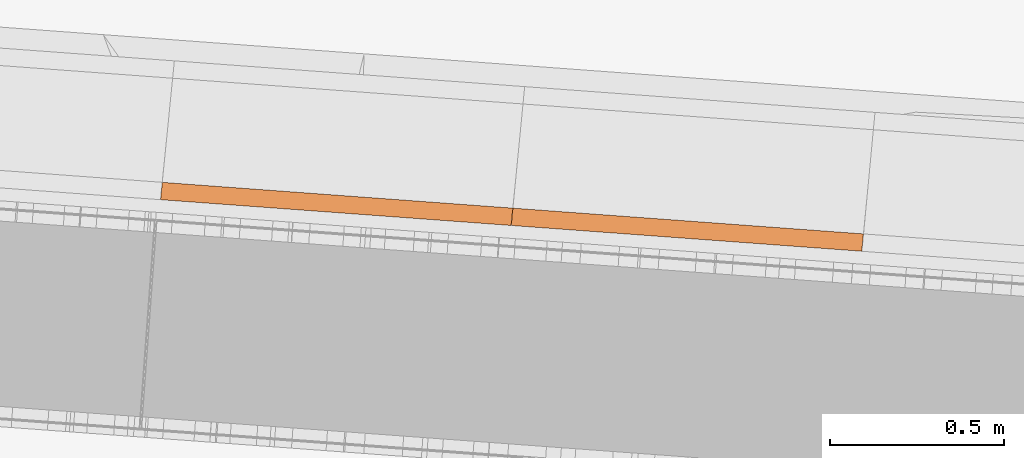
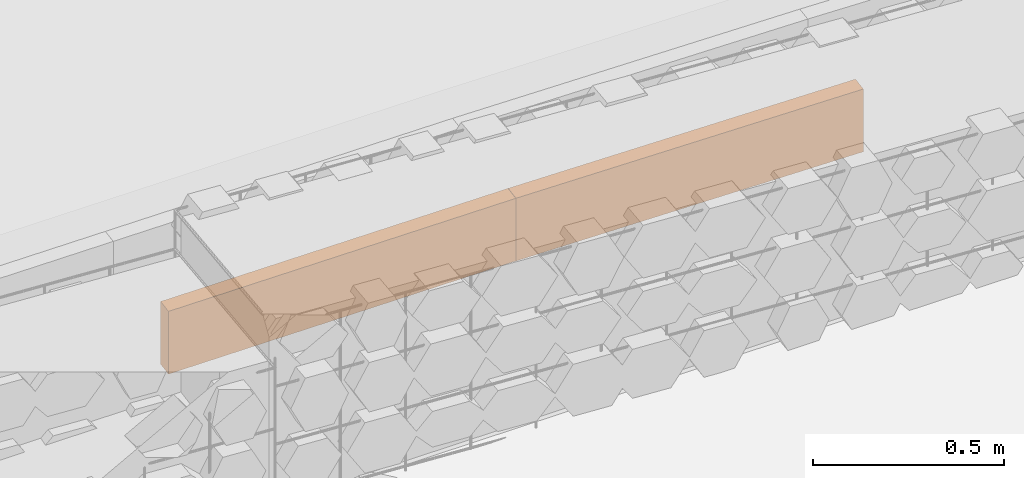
# Not in any storey, part 38 of 45: 2 proxies.
"""IFC4 model written with IfcOpenShell, lengths in metres."""

from ifc_helpers import new_model, si_unit, direction, frame, origin_with_axes, place, context, subcontext, project, spatial, polygons, material, element, save


model = new_model("IFC4")

# Units and contexts
model_context = context("Model", 3, precision=1e-05, world=origin_with_axes(), true_north=direction((0.0, 1.0)))
body_context = subcontext(model_context, "Body", "Model", "MODEL_VIEW")
ifc_project = project(units=[si_unit("VOLUMEUNIT", "CUBIC_METRE"), si_unit("LENGTHUNIT", "METRE"), si_unit("AREAUNIT", "SQUARE_METRE")], contexts=[model_context])

# Site
site_placement = place(None, origin_with_axes())
site = spatial("IfcSite", under=ifc_project, at=site_placement, Name="Lares · Rua das Mercês · artigo 4771")

# Proxies
ifc_material = material(Name="Caleiras · betão", Category="concrete")
proxy_1_placement = place(site_placement, frame((0.0, 0.0, 0.0), z_axis=(0.0, 0.0, 1.0), x_axis=(1.0, -1.03767253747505e-17, 0.0)))
element("IfcBuildingElementProxy", 1, at=proxy_1_placement, inside=site, material=ifc_material, Name="Acesso · canal lateral", ObjectType="Acesso · canal lateral", PredefinedType="USERDEFINED", context=body_context, shape_type="Tessellation", body=[
    polygons([(76.7206140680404, 0.52972265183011, 15.7341706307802), (76.7255519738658, 0.579478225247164, 15.7341706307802), (77.730505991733, 0.505583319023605, 15.7877776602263), (77.7255680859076, 0.455827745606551, 15.7877776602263), (76.7206140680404, 0.52972265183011, 15.9341706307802), (76.7255519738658, 0.579478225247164, 15.9341706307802), (77.730505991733, 0.505583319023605, 15.9877776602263), (77.7255680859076, 0.455827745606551, 15.9877776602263)], [[[4, 3, 2, 1]], [[5, 6, 7, 8]], [[1, 2, 6, 5]], [[2, 3, 7, 6]], [[3, 4, 8, 7]], [[4, 1, 5, 8]]]),
])
proxy_2_placement = place(site_placement, frame((0.0, 0.0, 0.0), z_axis=(0.0, 0.0, 1.0), x_axis=(1.0, -1.03767253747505e-17, 0.0)))
element("IfcBuildingElementProxy", 2, at=proxy_2_placement, inside=site, material=ifc_material, Name="Acesso · canal lateral", ObjectType="Acesso · canal lateral", PredefinedType="USERDEFINED", context=body_context, shape_type="Tessellation", body=[
    polygons([(77.7260732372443, 0.455778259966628, 15.7877776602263), (77.7308848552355, 0.505546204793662, 15.7877776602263), (78.7358623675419, 0.431650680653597, 15.8290898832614), (78.7310507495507, 0.381882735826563, 15.8290898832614), (77.7260732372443, 0.455778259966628, 15.9877776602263), (77.7308848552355, 0.505546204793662, 15.9877776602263), (78.7358623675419, 0.431650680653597, 16.0290898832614), (78.7310507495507, 0.381882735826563, 16.0290898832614)], [[[4, 3, 2, 1]], [[5, 6, 7, 8]], [[1, 2, 6, 5]], [[2, 3, 7, 6]], [[3, 4, 8, 7]], [[4, 1, 5, 8]]]),
])

save(model, "model.ifc")
